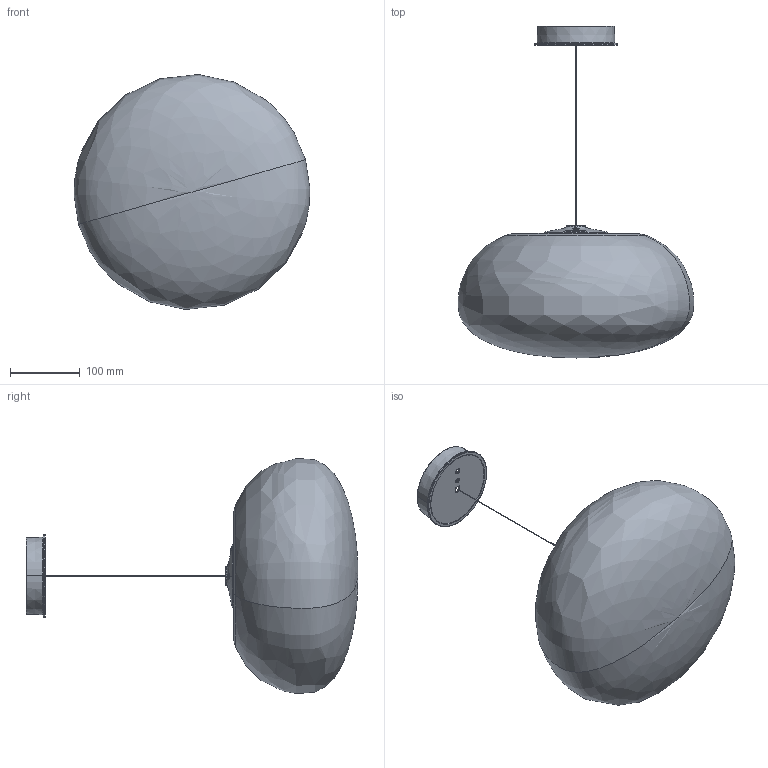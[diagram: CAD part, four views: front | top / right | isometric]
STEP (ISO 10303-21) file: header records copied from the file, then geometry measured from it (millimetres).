
FILE_DESCRIPTION (( 'STEP AP214' ), '1' );
FILE_NAME ('244_2_S_PL_3D.STEP', '2021-04-29T13:39:28', ( '' ), ( '' ), 'SwSTEP 2.0', 'SolidWorks 2021', '' );
FILE_SCHEMA (( 'AUTOMOTIVE_DESIGN' ));
Length unit declared in the file: millimetre
Products named in the file (1): 244_2_S_PL_3D
Bounding box: 338.72 x 476.73 x 337.45 mm (x, y, z)
Volume: 1149704.6 mm3; surface area: 591126.5 mm2
Topology: 6 solids, 6 shells, 557 faces, 1424 edges, 881 vertices
Faces by surface type: plane 185, bspline 160, cylinder 80, torus 76, cone 40, sphere 16
Entity records: 30190 total; most frequent: CARTESIAN_POINT 11690, ORIENTED_EDGE 2792, DIRECTION 2204, EDGE_CURVE 1396, VERTEX_POINT 881, AXIS2_PLACEMENT_3D 859, EDGE_LOOP 623, UNCERTAINTY_MEASURE_WITH_UNIT 565
